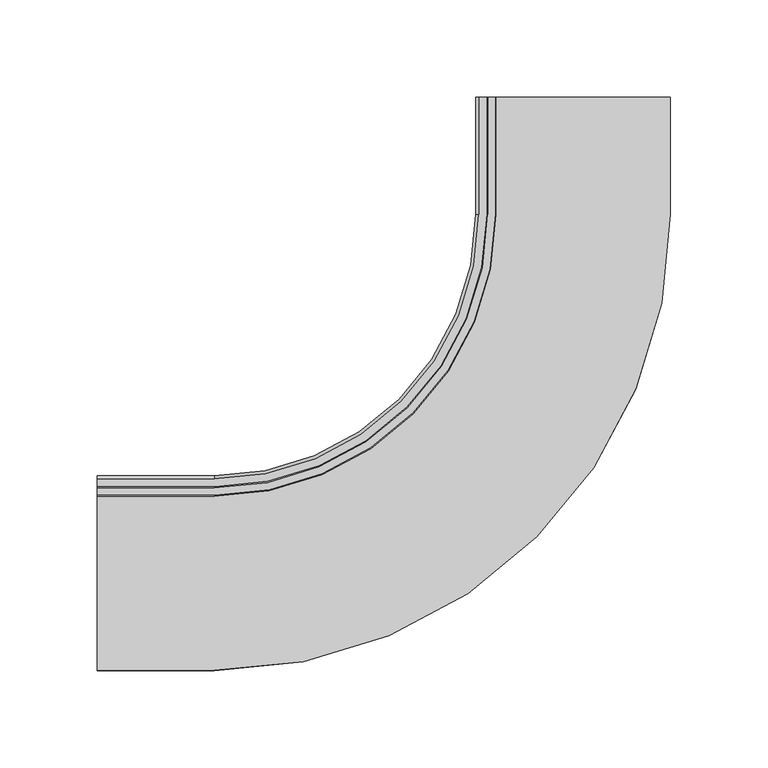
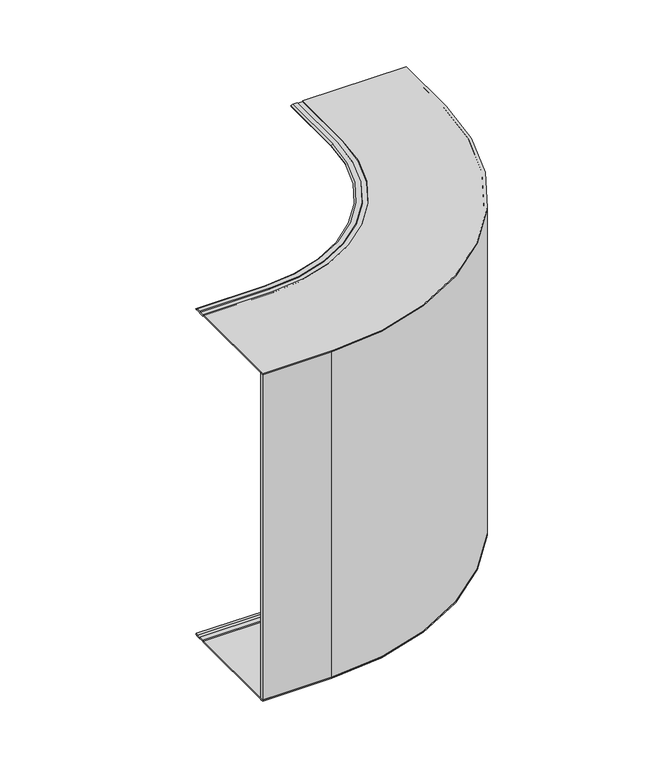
"""IFC4 building model written with IfcOpenShell, lengths in millimetres: cable carrier fitting geometry, CCERC_Vertical_Inside_Bend-Basortray : Basortray CCERC-GS."""

from ifc_helpers import new_model, si_unit, point, frame, frame_2d, origin, place, context, project, spatial, polyline, circle_curve, trimmed, segment, composite_curve, outline, extrude, source, transform, mapped, element, save
from ifc_brep_helpers import plane_surface, cylinder_surface, revolved_surface, advanced_brep


def cable_carrier_fitting_1b124e51(model_context):
    return source(origin(), model_context, "Body", "SolidModel", [
        advanced_brep(
        [(-39.3606052, 244.0, 150.0), (50.0, 244.0, 150.0), (50.0, 244.0, 149.0), (-38.9463916, 244.0, 149.0), (-39.557957, 244.0, 148.3884346), (-44.1470926, 244.0, 148.3884346), (-44.758658, 244.0, 149.0), (-48.0787826, 244.0, 149.0), (-49.5, 244.0, 148.1794597), (-50.0, 244.0, 149.0454851), (-48.3467318, 244.0, 150.0), (-44.3444445, 244.0, 150.0), (-43.732879, 244.0, 149.3884346), (-39.9721706, 244.0, 149.3884346), (-244.0, 39.3606052, 150.0), (-244.0, 39.9721706, 149.3884346), (-244.0, 43.732879, 149.3884346), (-244.0, 44.3444445, 150.0), (-244.0, 48.3467318, 150.0), (-244.0, 50.0, 149.0454851), (-244.0, 49.5, 148.1794597), (-244.0, 48.0787826, 149.0), (-244.0, 44.758658, 149.0), (-244.0, 44.1470926, 148.3884346), (-244.0, 39.557957, 148.3884346), (-244.0, 38.9463916, 149.0), (-244.0, -50.0, 149.0), (-244.0, -50.0, 150.0), (-184.0, -50.0, 149.0), (-184.0, -50.0, 150.0), (-184.0, 39.557957, 148.3884346), (-184.0, 38.9463916, 149.0), (-184.0, 44.758658, 149.0), (-184.0, 44.1470926, 148.3884346), (-184.0, 49.5, 148.1794597), (-184.0, 48.0787826, 149.0), (-184.0, 43.732879, 149.3884346), (-184.0, 44.3444445, 150.0), (-184.0, 39.3606052, 150.0), (-184.0, 39.9721706, 149.3884346), (-184.0, 50.0, 149.0454851), (-184.0, 48.3467318, 150.0), (-39.3606052, 184.0, 150.0), (50.0, 184.0, 150.0), (50.0, 184.0, 149.0), (-38.9463916, 184.0, 149.0), (-39.557957, 184.0, 148.3884346), (-44.1470926, 184.0, 148.3884346), (-44.758658, 184.0, 149.0), (-48.0787826, 184.0, 149.0), (-49.5, 184.0, 148.1794597), (-50.0, 184.0, 149.0454851), (-48.3467318, 184.0, 150.0), (-44.3444445, 184.0, 150.0), (-43.732879, 184.0, 149.3884346), (-39.9721706, 184.0, 149.3884346)],
        [
            (0, 1),
            (1, 2),
            (2, 3),
            (3, 4),
            (4, 5),
            (5, 6),
            (6, 7),
            (7, 8),
            (8, 9),
            (9, 10),
            (10, 11),
            (11, 12),
            (12, 13),
            (13, 0),
            (14, 15),
            (15, 16),
            (16, 17),
            (17, 18),
            (18, 19),
            (19, 20),
            (20, 21),
            (21, 22),
            (22, 23),
            (23, 24),
            (24, 25),
            (25, 26),
            (26, 27),
            (27, 14),
            (28, 29),
            (29, 27),
            (26, 28),
            (30, 31),
            (31, 25),
            (24, 30),
            (32, 33),
            (33, 23),
            (22, 32),
            (34, 35),
            (35, 21),
            (20, 34),
            (36, 37),
            (37, 17),
            (16, 36),
            (38, 39),
            (39, 15),
            (14, 38),
            (40, 34),
            (19, 40),
            (41, 40),
            (18, 41),
            (0, 42),
            (42, 38, circle_curve(frame((-184.0, 184.0, 150.0), z_axis=(0.0, 0.0, -1.0), x_axis=(1.0, 0.0, 0.0)), 144.6393948)),
            (29, 43, circle_curve(frame((-184.0, 184.0, 150.0), z_axis=(0.0, 0.0, 1.0), x_axis=(1.0, 0.0, 0.0)), 234.0)),
            (43, 1),
            (43, 44),
            (44, 2),
            (44, 28, circle_curve(frame((-184.0, 184.0, 149.0), z_axis=(0.0, 0.0, -1.0), x_axis=(1.0, 0.0, 0.0)), 234.0)),
            (31, 45, circle_curve(frame((-184.0, 184.0, 149.0), z_axis=(0.0, 0.0, 1.0), x_axis=(1.0, 0.0, 0.0)), 145.0536084)),
            (45, 3),
            (45, 46),
            (46, 4),
            (46, 30, circle_curve(frame((-184.0, 184.0, 148.3884346), z_axis=(0.0, 0.0, -1.0), x_axis=(1.0, 0.0, 0.0)), 144.442043)),
            (33, 47, circle_curve(frame((-184.0, 184.0, 148.3884346), z_axis=(0.0, 0.0, 1.0), x_axis=(1.0, 0.0, 0.0)), 139.8529074)),
            (47, 5),
            (47, 48),
            (48, 6),
            (48, 32, circle_curve(frame((-184.0, 184.0, 149.0), z_axis=(0.0, 0.0, -1.0), x_axis=(1.0, 0.0, 0.0)), 139.241342)),
            (35, 49, circle_curve(frame((-184.0, 184.0, 149.0), z_axis=(0.0, 0.0, 1.0), x_axis=(1.0, 0.0, 0.0)), 135.9212174)),
            (49, 7),
            (49, 50),
            (50, 8),
            (50, 51),
            (51, 9),
            (51, 52),
            (52, 10),
            (52, 41, circle_curve(frame((-184.0, 184.0, 150.0), z_axis=(0.0, 0.0, -1.0), x_axis=(1.0, 0.0, 0.0)), 135.6532682)),
            (37, 53, circle_curve(frame((-184.0, 184.0, 150.0), z_axis=(0.0, 0.0, 1.0), x_axis=(1.0, 0.0, 0.0)), 139.6555555)),
            (53, 11),
            (53, 54),
            (54, 12),
            (54, 36, circle_curve(frame((-184.0, 184.0, 149.3884346), z_axis=(0.0, 0.0, -1.0), x_axis=(1.0, 0.0, 0.0)), 140.267121)),
            (39, 55, circle_curve(frame((-184.0, 184.0, 149.3884346), z_axis=(0.0, 0.0, 1.0), x_axis=(1.0, 0.0, 0.0)), 144.0278294)),
            (55, 13),
            (55, 42),
            (34, 50, circle_curve(frame((-184.0, 184.0, 148.1794597), z_axis=(0.0, 0.0, 1.0), x_axis=(1.0, 0.0, 0.0)), 134.5)),
            (40, 51, circle_curve(frame((-184.0, 184.0, 149.0454851), z_axis=(0.0, 0.0, 1.0), x_axis=(1.0, 0.0, 0.0)), 134.0)),
        ],
        [
            plane_surface(frame((0.0, 244.0, 0.0), z_axis=(0.0, 1.0, 0.0), x_axis=(0.0, 0.0, 1.0))),
            plane_surface(frame((-244.0, 0.0, 0.0), z_axis=(-1.0, 0.0, 0.0), x_axis=(0.0, 0.0, 1.0))),
            plane_surface(frame((-184.0, -50.0, 150.0), z_axis=(0.0, -1.0, 0.0), x_axis=(-1.0, 0.0, 0.0))),
            plane_surface(frame((-184.0, 38.9463916, 149.0), z_axis=(0.0, -0.707106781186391, -0.7071067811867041), x_axis=(-1.0, 0.0, 0.0))),
            plane_surface(frame((-184.0, 44.1470926, 148.3884346), z_axis=(0.0, 0.7071067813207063, -0.7071067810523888), x_axis=(-1.0, 0.0, 0.0))),
            plane_surface(frame((-184.0, 48.0787826, 149.0), z_axis=(0.0, -0.5000000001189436, -0.8660254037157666), x_axis=(-1.0, 0.0, 0.0))),
            plane_surface(frame((-184.0, 44.3444445, 150.0), z_axis=(0.0, -0.7071067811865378, 0.7071067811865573), x_axis=(-1.0, 0.0, 0.0))),
            plane_surface(frame((-184.0, 39.9721706, 149.3884346), z_axis=(0.0, 0.7071067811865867, 0.7071067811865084), x_axis=(-1.0, 0.0, 0.0))),
            plane_surface(frame((-184.0, 49.5, 148.1794597), z_axis=(0.0, 0.8660254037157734, -0.5000000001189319), x_axis=(-1.0, 0.0, 0.0))),
            plane_surface(frame((-184.0, 50.0, 149.0454851), z_axis=(0.0, 0.5000000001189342, 0.8660254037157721), x_axis=(-1.0, 0.0, 0.0))),
            plane_surface(frame((-39.3606052, 244.0, 150.0), z_axis=(0.0, 0.0, 1.0), x_axis=(0.0, -1.0, 0.0))),
            plane_surface(frame((50.0, 244.0, 150.0), z_axis=(1.0, 0.0, 0.0), x_axis=(0.0, -1.0, 0.0))),
            plane_surface(frame((50.0, 244.0, 149.0), z_axis=(0.0, 0.0, -1.0), x_axis=(0.0, -1.0, 0.0))),
            plane_surface(frame((-38.9463916, 244.0, 149.0), z_axis=(0.707106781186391, 0.0, -0.7071067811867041), x_axis=(0.0, -1.0, 0.0))),
            plane_surface(frame((-39.557957, 244.0, 148.3884346), z_axis=(0.0, 0.0, -1.0), x_axis=(0.0, -1.0, 0.0))),
            plane_surface(frame((-44.1470926, 244.0, 148.3884346), z_axis=(-0.7071067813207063, 0.0, -0.7071067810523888), x_axis=(0.0, -1.0, 0.0))),
            plane_surface(frame((-44.758658, 244.0, 149.0), z_axis=(0.0, 0.0, -1.0), x_axis=(0.0, -1.0, 0.0))),
            plane_surface(frame((-48.0787826, 244.0, 149.0), z_axis=(0.5000000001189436, 0.0, -0.8660254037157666), x_axis=(0.0, -1.0, 0.0))),
            plane_surface(frame((-49.5, 244.0, 148.1794597), z_axis=(-0.8660254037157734, 0.0, -0.5000000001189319), x_axis=(0.0, -1.0, 0.0))),
            plane_surface(frame((-50.0, 244.0, 149.0454851), z_axis=(-0.5000000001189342, 0.0, 0.8660254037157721), x_axis=(0.0, -1.0, 0.0))),
            plane_surface(frame((-48.3467318, 244.0, 150.0), z_axis=(0.0, 0.0, 1.0), x_axis=(0.0, -1.0, 0.0))),
            plane_surface(frame((-44.3444445, 244.0, 150.0), z_axis=(0.7071067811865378, 0.0, 0.7071067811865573), x_axis=(0.0, -1.0, 0.0))),
            plane_surface(frame((-43.732879, 244.0, 149.3884346), z_axis=(0.0, 0.0, 1.0), x_axis=(0.0, -1.0, 0.0))),
            plane_surface(frame((-39.9721706, 244.0, 149.3884346), z_axis=(-0.7071067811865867, 0.0, 0.7071067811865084), x_axis=(0.0, -1.0, 0.0))),
            cylinder_surface(frame((-184.0, 184.0, 0.0), z_axis=(0.0, 0.0, -1.0), x_axis=(1.0, 0.0, 0.0)), 234.0),
            revolved_surface(polyline([(-38.9463916, 184.0, 149.0), (-39.557957, 184.0, 148.3884346)]), (-184.0, 184.0, 0.0), (0.0, 0.0, -1.0)),
            revolved_surface(polyline([(-44.1470926, 184.0, 148.3884346), (-44.758658, 184.0, 149.0)]), (-184.0, 184.0, 0.0), (0.0, 0.0, -1.0)),
            revolved_surface(polyline([(-48.0787826, 184.0, 149.0), (-49.5, 184.0, 148.1794597)]), (-184.0, 184.0, 0.0), (0.0, 0.0, -1.0)),
            revolved_surface(polyline([(-49.5, 184.0, 148.1794597), (-50.0, 184.0, 149.0454851)]), (-184.0, 184.0, 0.0), (0.0, 0.0, -1.0)),
            revolved_surface(polyline([(-50.0, 184.0, 149.0454851), (-48.3467318, 184.0, 150.0)]), (-184.0, 184.0, 0.0), (0.0, 0.0, -1.0)),
            revolved_surface(polyline([(-44.3444445, 184.0, 150.0), (-43.732879, 184.0, 149.3884346)]), (-184.0, 184.0, 0.0), (0.0, 0.0, -1.0)),
            revolved_surface(polyline([(-39.9721706, 184.0, 149.3884346), (-39.3606052, 184.0, 150.0)]), (-184.0, 184.0, 0.0), (0.0, 0.0, -1.0)),
        ],
        [
            (0, [[1, 2, 3, 4, 5, 6, 7, 8, 9, 10, 11, 12, 13, 14]]),
            (1, [[15, 16, 17, 18, 19, 20, 21, 22, 23, 24, 25, 26, 27, 28]]),
            (2, [[29, 30, -27, 31]]),
            (3, [[32, 33, -25, 34]]),
            (4, [[35, 36, -23, 37]]),
            (5, [[38, 39, -21, 40]]),
            (6, [[41, 42, -17, 43]]),
            (7, [[44, 45, -15, 46]]),
            (8, [[47, -40, -20, 48]]),
            (9, [[49, -48, -19, 50]]),
            (10, [[-1, 51, 52, -46, -28, -30, 53, 54]]),
            (11, [[-2, -54, 55, 56]]),
            (12, [[-3, -56, 57, -31, -26, -33, 58, 59]]),
            (13, [[-4, -59, 60, 61]]),
            (14, [[-5, -61, 62, -34, -24, -36, 63, 64]]),
            (15, [[-6, -64, 65, 66]]),
            (16, [[-7, -66, 67, -37, -22, -39, 68, 69]]),
            (17, [[-8, -69, 70, 71]]),
            (18, [[-9, -71, 72, 73]]),
            (19, [[-10, -73, 74, 75]]),
            (20, [[-11, -75, 76, -50, -18, -42, 77, 78]]),
            (21, [[-12, -78, 79, 80]]),
            (22, [[-13, -80, 81, -43, -16, -45, 82, 83]]),
            (23, [[-14, -83, 84, -51]]),
            (24, [[-57, -55, -53, -29]]),
            (25, [[-62, -60, -58, -32]]),
            (26, [[-67, -65, -63, -35]]),
            (27, [[85, -70, -68, -38]]),
            (28, [[86, -72, -85, -47]]),
            (29, [[-76, -74, -86, -49]]),
            (30, [[-81, -79, -77, -41]]),
            (31, [[-52, -84, -82, -44]]),
        ],
    ),
        advanced_brep(
        [(-39.3606052, 244.0, -150.0), (-39.9721706, 244.0, -149.3884346), (-43.732879, 244.0, -149.3884346), (-44.3444445, 244.0, -150.0), (-48.3467318, 244.0, -150.0), (-50.0, 244.0, -149.0454851), (-49.5, 244.0, -148.1794597), (-48.0787826, 244.0, -149.0), (-44.758658, 244.0, -149.0), (-44.1470926, 244.0, -148.3884346), (-39.557957, 244.0, -148.3884346), (-38.9463916, 244.0, -149.0), (50.0, 244.0, -149.0), (50.0, 244.0, -150.0), (-244.0, 39.3606052, -150.0), (-244.0, -50.0, -150.0), (-244.0, -50.0, -149.0), (-244.0, 38.9463916, -149.0), (-244.0, 39.557957, -148.3884346), (-244.0, 44.1470926, -148.3884346), (-244.0, 44.758658, -149.0), (-244.0, 48.0787826, -149.0), (-244.0, 49.5, -148.1794597), (-244.0, 50.0, -149.0454851), (-244.0, 48.3467318, -150.0), (-244.0, 44.3444445, -150.0), (-244.0, 43.732879, -149.3884346), (-244.0, 39.9721706, -149.3884346), (-184.0, 39.9721706, -149.3884346), (-184.0, 39.3606052, -150.0), (-184.0, 44.3444445, -150.0), (-184.0, 43.732879, -149.3884346), (-184.0, 50.0, -149.0454851), (-184.0, 48.3467318, -150.0), (-184.0, 49.5, -148.1794597), (-184.0, 48.0787826, -149.0), (-184.0, 44.1470926, -148.3884346), (-184.0, 44.758658, -149.0), (-184.0, 38.9463916, -149.0), (-184.0, 39.557957, -148.3884346), (-184.0, -50.0, -150.0), (-184.0, -50.0, -149.0), (-39.3606052, 184.0, -150.0), (-39.9721706, 184.0, -149.3884346), (-43.732879, 184.0, -149.3884346), (-44.3444445, 184.0, -150.0), (-48.3467318, 184.0, -150.0), (-50.0, 184.0, -149.0454851), (-49.5, 184.0, -148.1794597), (-48.0787826, 184.0, -149.0), (-44.758658, 184.0, -149.0), (-44.1470926, 184.0, -148.3884346), (-39.557957, 184.0, -148.3884346), (-38.9463916, 184.0, -149.0), (50.0, 184.0, -149.0), (50.0, 184.0, -150.0)],
        [
            (0, 1),
            (1, 2),
            (2, 3),
            (3, 4),
            (4, 5),
            (5, 6),
            (6, 7),
            (7, 8),
            (8, 9),
            (9, 10),
            (10, 11),
            (11, 12),
            (12, 13),
            (13, 0),
            (14, 15),
            (15, 16),
            (16, 17),
            (17, 18),
            (18, 19),
            (19, 20),
            (20, 21),
            (21, 22),
            (22, 23),
            (23, 24),
            (24, 25),
            (25, 26),
            (26, 27),
            (27, 14),
            (28, 29),
            (29, 14),
            (27, 28),
            (30, 31),
            (31, 26),
            (25, 30),
            (32, 33),
            (33, 24),
            (23, 32),
            (34, 32),
            (22, 34),
            (35, 34),
            (21, 35),
            (36, 37),
            (37, 20),
            (19, 36),
            (38, 39),
            (39, 18),
            (17, 38),
            (40, 41),
            (41, 16),
            (15, 40),
            (0, 42),
            (42, 43),
            (43, 1),
            (43, 28, circle_curve(frame((-184.0, 184.0, -149.3884346), z_axis=(0.0, 0.0, -1.0), x_axis=(1.0, 0.0, 0.0)), 144.0278294)),
            (31, 44, circle_curve(frame((-184.0, 184.0, -149.3884346), z_axis=(0.0, 0.0, 1.0), x_axis=(1.0, 0.0, 0.0)), 140.267121)),
            (44, 2),
            (44, 45),
            (45, 3),
            (45, 30, circle_curve(frame((-184.0, 184.0, -150.0), z_axis=(0.0, 0.0, -1.0), x_axis=(1.0, 0.0, 0.0)), 139.6555555)),
            (33, 46, circle_curve(frame((-184.0, 184.0, -150.0), z_axis=(0.0, 0.0, 1.0), x_axis=(1.0, 0.0, 0.0)), 135.6532682)),
            (46, 4),
            (46, 47),
            (47, 5),
            (47, 48),
            (48, 6),
            (48, 49),
            (49, 7),
            (49, 35, circle_curve(frame((-184.0, 184.0, -149.0), z_axis=(0.0, 0.0, -1.0), x_axis=(1.0, 0.0, 0.0)), 135.9212174)),
            (37, 50, circle_curve(frame((-184.0, 184.0, -149.0), z_axis=(0.0, 0.0, 1.0), x_axis=(1.0, 0.0, 0.0)), 139.241342)),
            (50, 8),
            (50, 51),
            (51, 9),
            (51, 36, circle_curve(frame((-184.0, 184.0, -148.3884346), z_axis=(0.0, 0.0, -1.0), x_axis=(1.0, 0.0, 0.0)), 139.8529074)),
            (39, 52, circle_curve(frame((-184.0, 184.0, -148.3884346), z_axis=(0.0, 0.0, 1.0), x_axis=(1.0, 0.0, 0.0)), 144.442043)),
            (52, 10),
            (52, 53),
            (53, 11),
            (53, 38, circle_curve(frame((-184.0, 184.0, -149.0), z_axis=(0.0, 0.0, -1.0), x_axis=(1.0, 0.0, 0.0)), 145.0536084)),
            (41, 54, circle_curve(frame((-184.0, 184.0, -149.0), z_axis=(0.0, 0.0, 1.0), x_axis=(1.0, 0.0, 0.0)), 234.0)),
            (54, 12),
            (54, 55),
            (55, 13),
            (55, 40, circle_curve(frame((-184.0, 184.0, -150.0), z_axis=(0.0, 0.0, -1.0), x_axis=(1.0, 0.0, 0.0)), 234.0)),
            (29, 42, circle_curve(frame((-184.0, 184.0, -150.0), z_axis=(0.0, 0.0, 1.0), x_axis=(1.0, 0.0, 0.0)), 144.6393948)),
            (32, 47, circle_curve(frame((-184.0, 184.0, -149.0454851), z_axis=(0.0, 0.0, 1.0), x_axis=(1.0, 0.0, 0.0)), 134.0)),
            (34, 48, circle_curve(frame((-184.0, 184.0, -148.1794597), z_axis=(0.0, 0.0, 1.0), x_axis=(1.0, 0.0, 0.0)), 134.5)),
        ],
        [
            plane_surface(frame((0.0, 244.0, 0.0), z_axis=(0.0, 1.0, 0.0), x_axis=(0.0, 0.0, 1.0))),
            plane_surface(frame((-244.0, 0.0, 0.0), z_axis=(-1.0, 0.0, 0.0), x_axis=(0.0, 0.0, 1.0))),
            plane_surface(frame((-184.0, 39.3606052, -150.0), z_axis=(0.0, 0.7071067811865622, -0.7071067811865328), x_axis=(-1.0, 0.0, 0.0))),
            plane_surface(frame((-184.0, 43.732879, -149.3884346), z_axis=(0.0, -0.7071067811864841, -0.7071067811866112), x_axis=(-1.0, 0.0, 0.0))),
            plane_surface(frame((-184.0, 48.3467318, -150.0), z_axis=(0.0, 0.499999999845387, -0.8660254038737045), x_axis=(-1.0, 0.0, 0.0))),
            plane_surface(frame((-184.0, 50.0, -149.0454851), z_axis=(0.0, 0.866025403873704, 0.49999999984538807), x_axis=(-1.0, 0.0, 0.0))),
            plane_surface(frame((-184.0, 49.5, -148.1794597), z_axis=(0.0, -0.49999999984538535, 0.8660254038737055), x_axis=(-1.0, 0.0, 0.0))),
            plane_surface(frame((-184.0, 44.758658, -149.0), z_axis=(0.0, 0.7071067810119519, 0.7071067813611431), x_axis=(-1.0, 0.0, 0.0))),
            plane_surface(frame((-184.0, 39.557957, -148.3884346), z_axis=(0.0, -0.7071067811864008, 0.7071067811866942), x_axis=(-1.0, 0.0, 0.0))),
            plane_surface(frame((-184.0, -50.0, -149.0), z_axis=(0.0, -1.0, 0.0), x_axis=(-1.0, 0.0, 0.0))),
            plane_surface(frame((-39.3606052, 244.0, -150.0), z_axis=(-0.7071067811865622, 0.0, -0.7071067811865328), x_axis=(0.0, -1.0, 0.0))),
            plane_surface(frame((-39.9721706, 244.0, -149.3884346), z_axis=(0.0, 0.0, -1.0), x_axis=(0.0, -1.0, 0.0))),
            plane_surface(frame((-43.732879, 244.0, -149.3884346), z_axis=(0.7071067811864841, 0.0, -0.7071067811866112), x_axis=(0.0, -1.0, 0.0))),
            plane_surface(frame((-44.3444445, 244.0, -150.0), z_axis=(0.0, 0.0, -1.0), x_axis=(0.0, -1.0, 0.0))),
            plane_surface(frame((-48.3467318, 244.0, -150.0), z_axis=(-0.499999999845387, 0.0, -0.8660254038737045), x_axis=(0.0, -1.0, 0.0))),
            plane_surface(frame((-50.0, 244.0, -149.0454851), z_axis=(-0.866025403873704, 0.0, 0.49999999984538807), x_axis=(0.0, -1.0, 0.0))),
            plane_surface(frame((-49.5, 244.0, -148.1794597), z_axis=(0.49999999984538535, 0.0, 0.8660254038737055), x_axis=(0.0, -1.0, 0.0))),
            plane_surface(frame((-48.0787826, 244.0, -149.0), z_axis=(0.0, 0.0, 1.0), x_axis=(0.0, -1.0, 0.0))),
            plane_surface(frame((-44.758658, 244.0, -149.0), z_axis=(-0.7071067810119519, 0.0, 0.7071067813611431), x_axis=(0.0, -1.0, 0.0))),
            plane_surface(frame((-44.1470926, 244.0, -148.3884346), z_axis=(0.0, 0.0, 1.0), x_axis=(0.0, -1.0, 0.0))),
            plane_surface(frame((-39.557957, 244.0, -148.3884346), z_axis=(0.7071067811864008, 0.0, 0.7071067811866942), x_axis=(0.0, -1.0, 0.0))),
            plane_surface(frame((-38.9463916, 244.0, -149.0), z_axis=(0.0, 0.0, 1.0), x_axis=(0.0, -1.0, 0.0))),
            plane_surface(frame((50.0, 244.0, -149.0), z_axis=(1.0, 0.0, 0.0), x_axis=(0.0, -1.0, 0.0))),
            plane_surface(frame((50.0, 244.0, -150.0), z_axis=(0.0, 0.0, -1.0), x_axis=(0.0, -1.0, 0.0))),
            revolved_surface(polyline([(-39.3606052, 184.0, -150.0), (-39.9721706, 184.0, -149.3884346)]), (-184.0, 184.0, 0.0), (0.0, 0.0, -1.0)),
            revolved_surface(polyline([(-43.732879, 184.0, -149.3884346), (-44.3444445, 184.0, -150.0)]), (-184.0, 184.0, 0.0), (0.0, 0.0, -1.0)),
            revolved_surface(polyline([(-48.3467318, 184.0, -150.0), (-50.0, 184.0, -149.0454851)]), (-184.0, 184.0, 0.0), (0.0, 0.0, -1.0)),
            revolved_surface(polyline([(-50.0, 184.0, -149.0454851), (-49.5, 184.0, -148.1794597)]), (-184.0, 184.0, 0.0), (0.0, 0.0, -1.0)),
            revolved_surface(polyline([(-49.5, 184.0, -148.1794597), (-48.0787826, 184.0, -149.0)]), (-184.0, 184.0, 0.0), (0.0, 0.0, -1.0)),
            revolved_surface(polyline([(-44.758658, 184.0, -149.0), (-44.1470926, 184.0, -148.3884346)]), (-184.0, 184.0, 0.0), (0.0, 0.0, -1.0)),
            revolved_surface(polyline([(-39.557957, 184.0, -148.3884346), (-38.9463916, 184.0, -149.0)]), (-184.0, 184.0, 0.0), (0.0, 0.0, -1.0)),
            cylinder_surface(frame((-184.0, 184.0, 0.0), z_axis=(0.0, 0.0, -1.0), x_axis=(1.0, 0.0, 0.0)), 234.0),
        ],
        [
            (0, [[1, 2, 3, 4, 5, 6, 7, 8, 9, 10, 11, 12, 13, 14]]),
            (1, [[15, 16, 17, 18, 19, 20, 21, 22, 23, 24, 25, 26, 27, 28]]),
            (2, [[29, 30, -28, 31]]),
            (3, [[32, 33, -26, 34]]),
            (4, [[35, 36, -24, 37]]),
            (5, [[38, -37, -23, 39]]),
            (6, [[40, -39, -22, 41]]),
            (7, [[42, 43, -20, 44]]),
            (8, [[45, 46, -18, 47]]),
            (9, [[48, 49, -16, 50]]),
            (10, [[-1, 51, 52, 53]]),
            (11, [[-2, -53, 54, -31, -27, -33, 55, 56]]),
            (12, [[-3, -56, 57, 58]]),
            (13, [[-4, -58, 59, -34, -25, -36, 60, 61]]),
            (14, [[-5, -61, 62, 63]]),
            (15, [[-6, -63, 64, 65]]),
            (16, [[-7, -65, 66, 67]]),
            (17, [[-8, -67, 68, -41, -21, -43, 69, 70]]),
            (18, [[-9, -70, 71, 72]]),
            (19, [[-10, -72, 73, -44, -19, -46, 74, 75]]),
            (20, [[-11, -75, 76, 77]]),
            (21, [[-12, -77, 78, -47, -17, -49, 79, 80]]),
            (22, [[-13, -80, 81, 82]]),
            (23, [[-14, -82, 83, -50, -15, -30, 84, -51]]),
            (24, [[-54, -52, -84, -29]]),
            (25, [[-59, -57, -55, -32]]),
            (26, [[85, -62, -60, -35]]),
            (27, [[86, -64, -85, -38]]),
            (28, [[-68, -66, -86, -40]]),
            (29, [[-73, -71, -69, -42]]),
            (30, [[-78, -76, -74, -45]]),
            (31, [[-83, -81, -79, -48]]),
        ],
    ),
        extrude(outline(composite_curve([segment(polyline([(47.46, 244.0), (50.0, 244.0), (50.0, 184.0)]), True, "CONTINUOUS"), segment(trimmed(circle_curve(frame_2d((-184.0, 184.0)), 234.0), [point((50.0, 184.0))], [point((-184.0, -50.0))], False, "CARTESIAN"), True, "CONTINUOUS"), segment(polyline([(-184.0, -50.0), (-244.0, -50.0), (-244.0, -47.46), (-184.0, -47.46)]), True, "CONTINUOUS"), segment(trimmed(circle_curve(frame_2d((-184.0, 184.0)), 231.46), [point((-184.0, -47.46))], [point((47.46, 184.0))], True, "CARTESIAN"), True, "CONTINUOUS"), segment(polyline([(47.46, 184.0), (47.46, 244.0)]), True, "CONTINUOUS")], self_intersect=False)), frame((0.0, 0.0, -150.0), z_axis=(0.0, 0.0, 1.0), x_axis=(1.0, 0.0, 0.0)), (0.0, 0.0, 1.0), 300.0),
    ])


if __name__ == "__main__":
    model = new_model("IFC4")
    model_context = context("Model", 3, world=origin())
    ifc_project = project(units=[si_unit("LENGTHUNIT", "METRE", prefix="MILLI")], contexts=[model_context])
    site = spatial("IfcSite", under=ifc_project)
    building = spatial("IfcBuilding", under=site)
    placement = place(None, origin())
    cable_carrier_fitting_shape = cable_carrier_fitting_1b124e51(model_context)
    element("IfcCableCarrierFitting", 1, ObjectType="CCERC_Vertical_Inside_Bend-Basortray : Basortray CCERC-GS", at=placement, inside=building, context=model_context, shape_type="MappedRepresentation", body=[
        mapped(cable_carrier_fitting_shape, transform((0.0, 0.0, 0.0), x_axis=(1.0, 0.0, 0.0), y_axis=(0.0, 1.0, 0.0), z_axis=(0.0, 0.0, 1.0))),
    ])
    save(model, "model.ifc")
